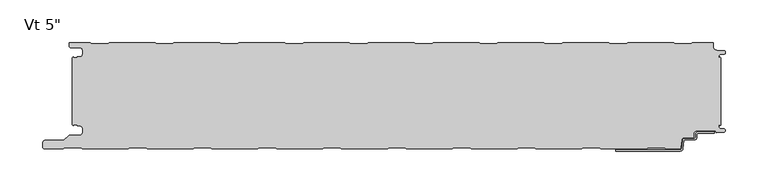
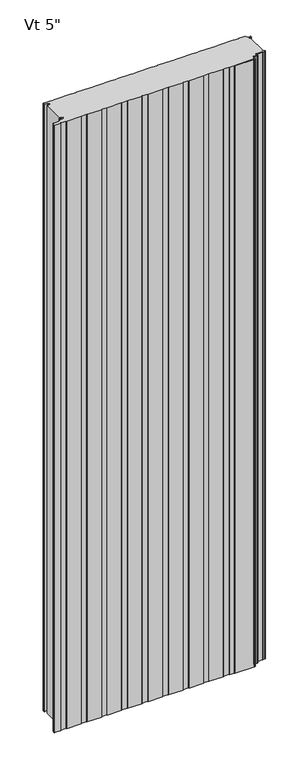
"""IFC4 building model written with IfcOpenShell, lengths in millimetres: plate geometry."""

from ifc_helpers import new_model, si_unit, point, frame, frame_2d, origin, origin_with_axes, place, context, project, spatial, polyline, circle_curve, trimmed, segment, composite_curve, outline, extrude, source, transform, mapped, element, save
from ifc_brep_helpers import plane_surface, cylinder_surface, revolved_surface, advanced_brep


def plate_e4049453(model_context):
    return source(origin(), model_context, "Body", "SolidModel", [
        advanced_brep(
        [(354.8464083, -105.9008679, 0.0), (373.5916083, -105.9008679, 0.0), (373.5916083, -107.4248679, 0.0), (354.8464083, -107.4248679, 0.0), (353.3224083, -108.9488679, 0.0), (353.3224083, -112.0476679, 0.0), (349.8680083, -115.5020679, 0.0), (338.655451, -115.5020679, 0.0), (337.8963506, -116.1976552, 0.0), (336.701523, -125.7416507, 0.0), (333.6651216, -128.524, 0.0), (258.0978083, -128.5360323, 0.0), (258.0978083, -127.0, 0.0), (333.6651216, -127.0, 0.0), (335.1833223, -125.6088254, 0.0), (336.3781499, -116.0648299, 0.0), (338.655451, -113.9780679, 0.0), (349.8680083, -113.9780679, 0.0), (351.7984083, -112.0476679, 0.0), (351.7984083, -108.9488679, 0.0), (354.8464083, -105.9008679, 2400.0), (351.7984083, -108.9488679, 2400.0), (351.7984083, -112.0476679, 2400.0), (349.8680083, -113.9780679, 2400.0), (338.655451, -113.9780679, 2400.0), (336.3781499, -116.0648299, 2400.0), (335.1833223, -125.6088254, 2400.0), (333.6651216, -127.0, 2400.0), (258.0978083, -127.0, 2400.0), (258.0978083, -128.5360323, 2400.0), (333.6651216, -128.5360323, 2400.0), (336.701523, -125.7416507, 2400.0), (337.8963506, -116.1976552, 2400.0), (338.655451, -115.5020679, 2400.0), (349.8680083, -115.5020679, 2400.0), (353.3224083, -112.0476679, 2400.0), (353.3224083, -108.9488679, 2400.0), (354.8464083, -107.4248679, 2400.0), (373.5916083, -107.4248679, 2400.0), (373.5916083, -105.9008679, 2400.0)],
        [
            (0, 1),
            (1, 2),
            (2, 3),
            (3, 4, circle_curve(frame((354.8464083, -108.9488679, 0.0), z_axis=(0.0, 0.0, 1.0), x_axis=(0.0, 1.0, 0.0)), 1.524)),
            (4, 5),
            (5, 6, circle_curve(frame((349.8680083, -112.0476679, 0.0), z_axis=(0.0, 0.0, -1.0), x_axis=(0.0, 1.0, 0.0)), 3.4544)),
            (6, 7),
            (7, 8, circle_curve(frame((338.655451, -116.2640679, 0.0), z_axis=(0.0, 0.0, 1.0), x_axis=(0.0, 1.0, 0.0)), 0.762)),
            (8, 9),
            (9, 10, circle_curve(frame((333.6651216, -125.476, 0.0), z_axis=(0.0, 0.0, -1.0), x_axis=(0.0, 1.0, 0.0)), 3.048)),
            (10, 11),
            (11, 12),
            (12, 13),
            (13, 14, circle_curve(frame((333.6651216, -125.476, 0.0), z_axis=(0.0, 0.0, 1.0), x_axis=(0.0, 1.0, 0.0)), 1.524)),
            (14, 15),
            (15, 16, circle_curve(frame((338.655451, -116.2640679, 0.0), z_axis=(0.0, 0.0, -1.0), x_axis=(0.0, 1.0, 0.0)), 2.286)),
            (16, 17),
            (17, 18, circle_curve(frame((349.8680083, -112.0476679, 0.0), z_axis=(0.0, 0.0, 1.0), x_axis=(0.0, 1.0, 0.0)), 1.9304)),
            (18, 19),
            (19, 0, circle_curve(frame((354.8464083, -108.9488679, 0.0), z_axis=(0.0, 0.0, -1.0), x_axis=(0.0, 1.0, 0.0)), 3.048)),
            (20, 21, circle_curve(frame((354.8464083, -108.9488679, 2400.0), z_axis=(0.0, 0.0, 1.0), x_axis=(0.0, 1.0, 0.0)), 3.048)),
            (21, 22),
            (22, 23, circle_curve(frame((349.8680083, -112.0476679, 2400.0), z_axis=(0.0, 0.0, -1.0), x_axis=(0.0, 1.0, 0.0)), 1.9304)),
            (23, 24),
            (24, 25, circle_curve(frame((338.655451, -116.2640679, 2400.0), z_axis=(0.0, 0.0, 1.0), x_axis=(0.0, 1.0, 0.0)), 2.286)),
            (25, 26),
            (26, 27, circle_curve(frame((333.6651216, -125.476, 2400.0), z_axis=(0.0, 0.0, -1.0), x_axis=(0.0, 1.0, 0.0)), 1.524)),
            (27, 28),
            (28, 29),
            (29, 30),
            (30, 31, circle_curve(frame((333.6651216, -125.476, 2400.0), z_axis=(0.0, 0.0, 1.0), x_axis=(0.0, 1.0, 0.0)), 3.048)),
            (31, 32),
            (32, 33, circle_curve(frame((338.655451, -116.2640679, 2400.0), z_axis=(0.0, 0.0, -1.0), x_axis=(0.0, 1.0, 0.0)), 0.762)),
            (33, 34),
            (34, 35, circle_curve(frame((349.8680083, -112.0476679, 2400.0), z_axis=(0.0, 0.0, 1.0), x_axis=(0.0, 1.0, 0.0)), 3.4544)),
            (35, 36),
            (36, 37, circle_curve(frame((354.8464083, -108.9488679, 2400.0), z_axis=(0.0, 0.0, -1.0), x_axis=(0.0, 1.0, 0.0)), 1.524)),
            (37, 38),
            (38, 39),
            (39, 20),
            (2, 38),
            (37, 3),
            (15, 25),
            (24, 16),
            (7, 33),
            (32, 8),
            (5, 35),
            (34, 6),
            (1, 39),
            (36, 4),
            (9, 31),
            (30, 10),
            (13, 27),
            (26, 14),
            (0, 20),
            (12, 28),
            (29, 11),
            (23, 17),
            (18, 22),
            (21, 19),
        ],
        [
            plane_surface(frame((373.5916083, -127.0, 0.0), z_axis=(0.0, 0.0, -1.0), x_axis=(-1.0, 0.0, 0.0))),
            plane_surface(frame((373.5916083, -127.0, 2400.0), z_axis=(0.0, 0.0, 1.0), x_axis=(-1.0, 0.0, 0.0))),
            plane_surface(frame((354.8464083, -107.4248679, 0.0), z_axis=(0.0, -1.0, 0.0), x_axis=(0.0, 0.0, 1.0))),
            cylinder_surface(frame((338.655451, -116.2640679, 0.0), z_axis=(0.0, 0.0, -1.0), x_axis=(0.0, 1.0, 0.0)), 2.286),
            revolved_surface(polyline([(338.655451, -115.5020679, 2400.0), (338.655451, -115.5020679, 0.0)]), (338.655451, -116.2640679, 0.0), (0.0, 0.0, 1.0)),
            cylinder_surface(frame((349.8680083, -112.0476679, 0.0), z_axis=(0.0, 0.0, -1.0), x_axis=(0.0, 1.0, 0.0)), 3.4544),
            plane_surface(frame((373.5916083, -107.4248679, 0.0), z_axis=(1.0, 0.0, 0.0), x_axis=(0.0, 0.0, 1.0))),
            revolved_surface(polyline([(354.8464083, -107.4248679, 2400.0), (354.8464083, -107.4248679, 0.0)]), (354.8464083, -108.9488679, 0.0), (0.0, 0.0, 1.0)),
            cylinder_surface(frame((333.6651216, -125.476, 0.0), z_axis=(0.0, 0.0, -1.0), x_axis=(0.0, 1.0, 0.0)), 3.048),
            revolved_surface(polyline([(333.6651216, -123.952, 2400.0), (333.6651216, -123.952, 0.0)]), (333.6651216, -125.476, 0.0), (0.0, 0.0, 1.0)),
            plane_surface(frame((373.5916083, -105.9008679, 0.0), z_axis=(0.0, 1.0, 0.0), x_axis=(0.0, 0.0, 1.0))),
            plane_surface(frame((336.3781499, -116.0648299, 0.0), z_axis=(-0.9922544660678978, 0.12422187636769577, 0.0), x_axis=(0.0, 0.0, 1.0))),
            plane_surface(frame((333.6651216, -127.0, 0.0), z_axis=(0.0, 1.0, 0.0), x_axis=(0.0, 0.0, 1.0))),
            plane_surface(frame((336.701523, -125.7416507, 0.0), z_axis=(0.9922544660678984, -0.12422187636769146, 0.0), x_axis=(0.0, 0.0, 1.0))),
            plane_surface(frame((353.3224083, -112.0476679, 0.0), z_axis=(1.0, 0.0, 0.0), x_axis=(0.0, 0.0, 1.0))),
            plane_surface(frame((258.0978083, -128.5360323, 0.0), z_axis=(0.0, -1.0, 0.0), x_axis=(0.0, 0.0, 1.0))),
            plane_surface(frame((258.0978083, -127.0, 0.0), z_axis=(-1.0, 0.0, 0.0), x_axis=(0.0, 0.0, 1.0))),
            plane_surface(frame((349.8680083, -113.9780679, 0.0), z_axis=(0.0, 1.0, 0.0), x_axis=(0.0, 0.0, 1.0))),
            plane_surface(frame((351.7984083, -108.9488679, 0.0), z_axis=(-1.0, 0.0, 0.0), x_axis=(0.0, 0.0, 1.0))),
            plane_surface(frame((338.655451, -115.5020679, 0.0), z_axis=(0.0, -1.0, 0.0), x_axis=(0.0, 0.0, 1.0))),
            revolved_surface(polyline([(349.8680083, -110.11726789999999, 2400.0), (349.8680083, -110.11726789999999, 0.0)]), (349.8680083, -112.0476679, 0.0), (0.0, 0.0, 1.0)),
            cylinder_surface(frame((354.8464083, -108.9488679, 0.0), z_axis=(0.0, 0.0, -1.0), x_axis=(0.0, 1.0, 0.0)), 3.048),
        ],
        [
            (0, [[1, 2, 3, 4, 5, 6, 7, 8, 9, 10, 11, 12, 13, 14, 15, 16, 17, 18, 19, 20]]),
            (1, [[21, 22, 23, 24, 25, 26, 27, 28, 29, 30, 31, 32, 33, 34, 35, 36, 37, 38, 39, 40]]),
            (2, [[41, -38, 42, -3]]),
            (3, [[43, -25, 44, -16]]),
            (4, [[45, -33, 46, -8]]),
            (5, [[47, -35, 48, -6]]),
            (6, [[49, -39, -41, -2]]),
            (7, [[-42, -37, 50, -4]]),
            (8, [[51, -31, 52, -10]]),
            (9, [[53, -27, 54, -14]]),
            (10, [[55, -40, -49, -1]]),
            (11, [[-54, -26, -43, -15]]),
            (12, [[56, -28, -53, -13]]),
            (13, [[-46, -32, -51, -9]]),
            (14, [[-50, -36, -47, -5]]),
            (15, [[-52, -30, 57, -11]]),
            (16, [[-57, -29, -56, -12]]),
            (17, [[-44, -24, 58, -17]]),
            (18, [[59, -22, 60, -19]]),
            (19, [[-48, -34, -45, -7]]),
            (20, [[-58, -23, -59, -18]]),
            (21, [[-60, -21, -55, -20]]),
        ],
    ),
        extrude(outline(composite_curve([segment(polyline([(-379.9683001, -98.6760133), (-381.0, -97.6443135), (-381.0, -19.0328281), (-379.9686883, -18.0015165)]), True, "CONTINUOUS"), segment(trimmed(circle_curve(frame_2d((-378.9686911, -18.0015105)), 0.9999972), [point((-379.9686883, -18.0015165))], [point((-378.9686911, -19.0015077))], True, "CARTESIAN"), True, "CONTINUOUS"), segment(polyline([(-378.9686911, -19.0015077), (-374.9684875, -19.0015077), (-374.9684875, -18.0015132), (-372.2762777, -18.0015132)]), True, "CONTINUOUS"), segment(trimmed(circle_curve(frame_2d((-372.2762777, -14.7015175)), 3.2999957), [point((-372.2762777, -18.0015132))], [point((-368.976282, -14.7015175))], True, "CARTESIAN"), True, "CONTINUOUS"), segment(polyline([(-368.976282, -14.7015175), (-368.976282, -10.3015263)]), True, "CONTINUOUS"), segment(trimmed(circle_curve(frame_2d((-372.2762778, -10.3015263)), 3.2999959), [point((-368.976282, -10.3015263))], [point((-372.2762778, -7.0015304))], True, "CARTESIAN"), True, "CONTINUOUS"), segment(polyline([(-372.2762778, -7.0015304), (-382.6962564, -7.0015304)]), True, "CONTINUOUS"), segment(trimmed(circle_curve(frame_2d((-382.6962564, -5.2315362)), 1.7699942), [point((-382.6962564, -7.0015304))], [point((-384.4662506, -5.2315362))], False, "CARTESIAN"), True, "CONTINUOUS"), segment(polyline([(-384.4662506, -5.2315362), (-384.4662506, -0.9999889), (-359.965974, -0.9999889), (-358.5803313, -2.200228), (-339.205165, -2.200228), (-337.8195321, -0.9999973), (-283.7661167, -0.9999973), (-282.3804837, -2.200228), (-263.0053174, -2.200228), (-261.6196845, -0.9999973), (-207.5662691, -0.9999973), (-206.1806361, -2.200228), (-186.8054698, -2.200228), (-185.4198369, -0.9999973), (-131.3664215, -0.9999973), (-129.9807885, -2.200228), (-110.6056222, -2.200228), (-109.2199893, -0.9999973), (-55.1665739, -0.9999973), (-53.7809409, -2.200228), (-34.4057746, -2.200228), (-33.0201417, -0.9999973), (21.0332737, -0.9999973), (22.4189067, -2.200228), (41.794073, -2.200228), (43.1797059, -0.9999973), (97.2331213, -0.9999973), (98.6187543, -2.200228), (117.9939206, -2.200228), (119.3795535, -0.9999973), (173.4329689, -0.9999973), (174.8186019, -2.200228), (194.1937682, -2.200228), (195.5794011, -0.9999973), (249.6328165, -0.9999973), (251.0184495, -2.200228), (270.3936158, -2.200228), (271.7792487, -0.9999973), (325.8326641, -0.9999973), (327.2182971, -2.200228), (346.5934634, -2.200228), (347.9790963, -0.9999973), (372.4787013, -0.9999973), (372.4787013, -6.002598)]), True, "CONTINUOUS"), segment(trimmed(circle_curve(frame_2d((376.4939817, -5.9867311)), 4.0153117), [point((372.4787013, -6.002598))], [point((376.3016499, -9.9974338))], True, "CARTESIAN"), True, "CONTINUOUS"), segment(polyline([(376.3016499, -9.9974338), (384.7931719, -10.4046415)]), True, "CONTINUOUS"), segment(trimmed(circle_curve(frame_2d((384.6781032, -12.5552844)), 2.153719), [point((384.7931719, -10.4046415))], [point((384.7921924, -14.7059795))], False, "CARTESIAN"), True, "CONTINUOUS"), segment(polyline([(384.7921924, -14.7059795), (380.6513685, -14.9256402)]), True, "CONTINUOUS"), segment(trimmed(circle_curve(frame_2d((380.7186869, -16.6743434)), 1.7499985), [point((380.6513685, -14.9256402))], [point((378.9686884, -16.6743434))], True, "CARTESIAN"), True, "CONTINUOUS"), segment(polyline([(378.9686884, -16.6743434), (378.9686884, -19.0015261), (379.9686884, -19.0015261), (379.9686884, -17.5871382), (381.0, -18.6184498), (381.0, -98.0586918), (379.9686884, -99.0900034), (379.9686884, -97.5025034), (378.9686884, -97.5025034), (378.9686884, -100.28705)]), True, "CONTINUOUS"), segment(trimmed(circle_curve(frame_2d((380.8099653, -100.243489)), 1.8417922), [point((378.9686884, -100.28705))], [point((380.6977997, -102.0818625))], True, "CARTESIAN"), True, "CONTINUOUS"), segment(polyline([(380.6977997, -102.0818625), (384.7037148, -102.3262775)]), True, "CONTINUOUS"), segment(trimmed(circle_curve(frame_2d((384.6236622, -104.4266264)), 2.1018739), [point((384.7037148, -102.3262775))], [point((384.706811, -106.526855))], False, "CARTESIAN"), True, "CONTINUOUS"), segment(polyline([(384.706811, -106.526855), (375.7334028, -106.8821154), (374.5895515, -104.9012676), (353.4091924, -104.9012676)]), True, "CONTINUOUS"), segment(trimmed(circle_curve(frame_2d((353.4091924, -108.9007205)), 3.9994529), [point((353.4091924, -104.9012676))], [point((349.4097394, -108.9007205))], True, "CARTESIAN"), True, "CONTINUOUS"), segment(polyline([(349.4097394, -108.9007205), (349.4097394, -112.0443759)]), True, "CONTINUOUS"), segment(trimmed(circle_curve(frame_2d((348.4583308, -112.0443759)), 0.9514087), [point((349.4097394, -112.0443759))], [point((348.4583308, -112.9957846))], False, "CARTESIAN"), True, "CONTINUOUS"), segment(polyline([(348.4583308, -112.9957846), (338.3653654, -112.9957846)]), True, "CONTINUOUS"), segment(trimmed(circle_curve(frame_2d((338.2396267, -116.0231704)), 3.0299959), [point((338.3653654, -112.9957846))], [point((335.221161, -115.7590875))], True, "CARTESIAN"), True, "CONTINUOUS"), segment(polyline([(335.221161, -115.7590875), (334.4671075, -124.2178001)]), True, "CONTINUOUS"), segment(trimmed(circle_curve(frame_2d((332.5156233, -124.0461167)), 1.9590216), [point((334.4671075, -124.2178001))], [point((332.5156233, -126.0051384))], False, "CARTESIAN"), True, "CONTINUOUS"), segment(polyline([(332.5156233, -126.0051384), (316.4457079, -126.0051384), (315.2403361, -124.7997666), (295.5209236, -124.7997666), (294.3206929, -125.9999973), (240.2405611, -125.9999973), (239.0403304, -124.7997666), (219.3209179, -124.7997666), (218.1206872, -125.9999973), (164.0405554, -125.9999973), (162.8403247, -124.7997666), (143.1209122, -124.7997666), (141.9206815, -125.9999973), (87.8405497, -125.9999973), (86.640319, -124.7997666), (66.9209065, -124.7997666), (65.7206758, -125.9999973), (11.640544, -125.9999973), (10.4403133, -124.7997666), (-9.2790992, -124.7997666), (-10.4793299, -125.9999973), (-64.5594617, -125.9999973), (-65.7596924, -124.7997666), (-85.4791049, -124.7997666), (-86.6793356, -125.9999973), (-140.7594674, -125.9999973), (-141.9596981, -124.7997666), (-161.6791106, -124.7997666), (-162.8793413, -125.9999973), (-216.9594731, -125.9999973), (-218.1597038, -124.7997666), (-237.8791163, -124.7997666), (-239.079347, -125.9999973), (-293.1594787, -125.9999973), (-294.3597095, -124.7997666), (-314.079122, -124.7997666), (-315.2793527, -125.9999973), (-369.3594844, -125.9999973), (-370.5597151, -124.7997666), (-390.2791277, -124.7997666), (-391.4790962, -125.9997351), (-413.4521176, -125.9997351)]), True, "CONTINUOUS"), segment(trimmed(circle_curve(frame_2d((-413.4521176, -123.4294958)), 2.5702393), [point((-413.4521176, -125.9997351))], [point((-416.0125699, -123.2054102))], False, "CARTESIAN"), True, "CONTINUOUS"), segment(polyline([(-416.0125699, -123.2054102), (-415.5765709, -118.2235893)]), True, "CONTINUOUS"), segment(trimmed(circle_curve(frame_2d((-412.9198392, -118.7049799)), 2.6999926), [point((-415.5765709, -118.2235893))], [point((-412.9198392, -116.0049873))], False, "CARTESIAN"), True, "CONTINUOUS"), segment(polyline([(-412.9198392, -116.0049873), (-390.8247096, -116.0049873), (-385.3226385, -110.5029162)]), True, "CONTINUOUS"), segment(trimmed(circle_curve(frame_2d((-384.1205608, -111.7049939)), 1.6999946), [point((-385.3226385, -110.5029162))], [point((-384.1205608, -110.0049993))], False, "CARTESIAN"), True, "CONTINUOUS"), segment(polyline([(-384.1205608, -110.0049993), (-372.3096717, -110.0049993)]), True, "CONTINUOUS"), segment(trimmed(circle_curve(frame_2d((-372.3096717, -106.655004)), 3.3499953), [point((-372.3096717, -110.0049993))], [point((-368.9596764, -106.655004))], True, "CARTESIAN"), True, "CONTINUOUS"), segment(polyline([(-368.9596764, -106.655004), (-368.9596764, -102.2550128)]), True, "CONTINUOUS"), segment(trimmed(circle_curve(frame_2d((-372.3096717, -102.2550128)), 3.3499953), [point((-368.9596764, -102.2550128))], [point((-372.3096717, -98.9050175))], True, "CARTESIAN"), True, "CONTINUOUS"), segment(polyline([(-372.3096717, -98.9050175), (-375.0087827, -98.9050175), (-375.0087827, -97.5065386), (-378.7671761, -97.5065386)]), True, "CONTINUOUS"), segment(trimmed(circle_curve(frame_2d((-378.7686908, -98.7065352)), 1.1999976), [point((-378.7671761, -97.5065386))], [point((-379.9683001, -98.6760133))], True, "CARTESIAN"), True, "CONTINUOUS")], self_intersect=False)), origin_with_axes(), (0.0, 0.0, 1.0), 2400.0),
    ])


if __name__ == "__main__":
    model = new_model("IFC4")
    model_context = context("Model", 3, world=origin())
    ifc_project = project(units=[si_unit("LENGTHUNIT", "METRE", prefix="MILLI")], contexts=[model_context])
    site = spatial("IfcSite", under=ifc_project)
    building = spatial("IfcBuilding", under=site)
    placement = place(None, origin())
    plate_shape = plate_e4049453(model_context)
    element("IfcPlate", 1, ObjectType="KIP-30-Karrier-KP-R19-CP-Vt-SL_SL : Vt 5\"", at=placement, inside=building, context=model_context, shape_type="MappedRepresentation", body=[
        mapped(plate_shape, transform((0.0, 0.0, 0.0), x_axis=(1.0, 0.0, 0.0), y_axis=(0.0, 1.0, 0.0), z_axis=(0.0, 0.0, 1.0))),
    ])
    save(model, "model.ifc")
